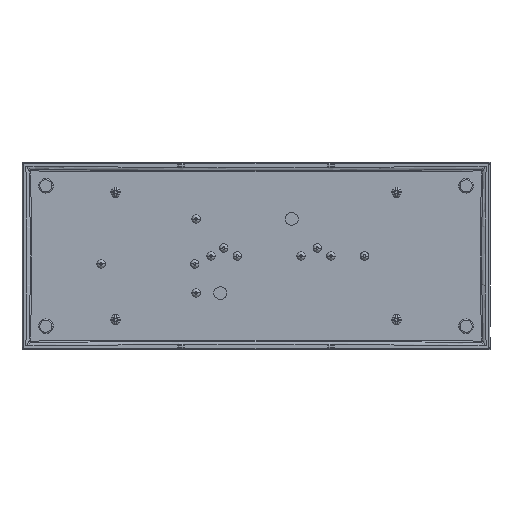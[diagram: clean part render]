
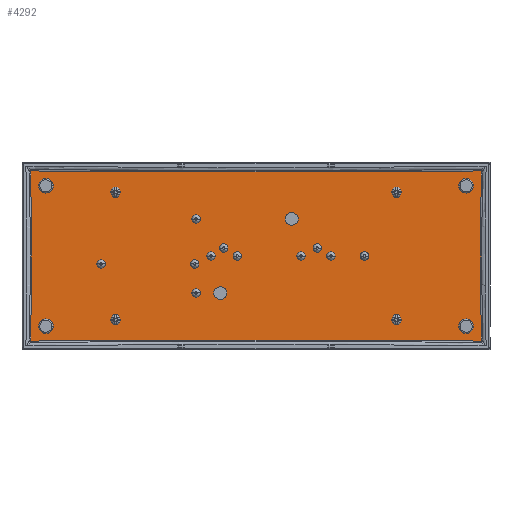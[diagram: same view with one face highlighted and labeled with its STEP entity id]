
A CAD part, front view. The second image highlights one B-rep face of the part: STEP entity #4292.
In plain terms, the highlighted planar face has unit normal (0, -1, 0).
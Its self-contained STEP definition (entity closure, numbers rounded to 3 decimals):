
#447=CARTESIAN_POINT('',(2122.,-1.,0.));
#448=DIRECTION('',(0.,1.,0.));
#449=DIRECTION('',(-1.,0.,-0.023));
#450=AXIS2_PLACEMENT_3D('',#447,#448,#449);
#452=CARTESIAN_POINT('',(0.,-1.,-13324.854));
#453=DIRECTION('',(0.,1.,0.));
#454=DIRECTION('',(-0.009,0.,1.));
#455=AXIS2_PLACEMENT_3D('',#452,#453,#454);
#457=CARTESIAN_POINT('',(-2122.,-1.,0.));
#458=DIRECTION('',(0.,1.,0.));
#459=DIRECTION('',(1.,0.,0.023));
#460=AXIS2_PLACEMENT_3D('',#457,#458,#459);
#462=CARTESIAN_POINT('',(0.,-1.,13324.854));
#463=DIRECTION('',(0.,1.,0.));
#464=DIRECTION('',(0.009,0.,-1.));
#465=AXIS2_PLACEMENT_3D('',#462,#463,#464);
#3799=CARTESIAN_POINT('',(120.402,-1.,-45.432));
#3800=CARTESIAN_POINT('',(120.402,-1.,45.432));
#3801=VERTEX_POINT('',#3799);
#3802=VERTEX_POINT('',#3800);
#3807=CARTESIAN_POINT('',(-120.402,-1.,45.432));
#3808=VERTEX_POINT('',#3807);
#3813=CARTESIAN_POINT('',(-120.402,-1.,-45.432));
#3814=VERTEX_POINT('',#3813);
#4277=CARTESIAN_POINT('',(0.,-1.,0.));
#4278=DIRECTION('',(0.,-1.,0.));
#4279=DIRECTION('',(0.,0.,1.));
#4280=AXIS2_PLACEMENT_3D('',#4277,#4278,#4279);
#4281=PLANE('',#4280);
#4283=ORIENTED_EDGE('',*,*,#4282,.F.);
#4285=ORIENTED_EDGE('',*,*,#4284,.F.);
#4287=ORIENTED_EDGE('',*,*,#4286,.F.);
#4289=ORIENTED_EDGE('',*,*,#4288,.F.);
#4290=EDGE_LOOP('',(#4283,#4285,#4287,#4289));
#4291=FACE_OUTER_BOUND('',#4290,.F.);
#4292=ADVANCED_FACE('',(#4291),#4281,.T.);
#451=CIRCLE('',#450,2002.114);
#456=CIRCLE('',#455,13279.968);
#461=CIRCLE('',#460,2002.114);
#466=CIRCLE('',#465,13279.968);
#4282=EDGE_CURVE('',#3801,#3802,#451,.T.);
#4284=EDGE_CURVE('',#3814,#3801,#456,.T.);
#4286=EDGE_CURVE('',#3808,#3814,#461,.T.);
#4288=EDGE_CURVE('',#3802,#3808,#466,.T.);
